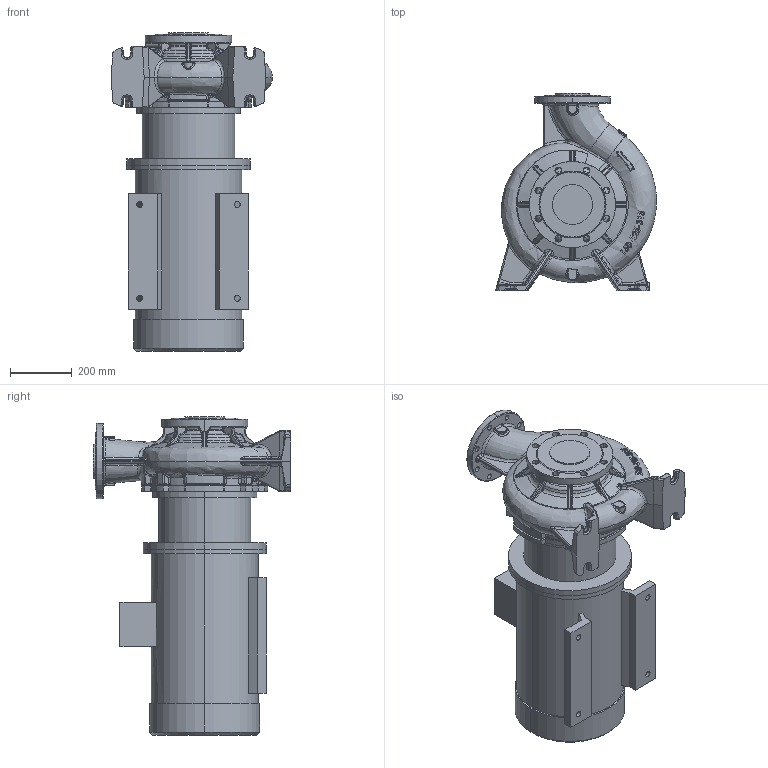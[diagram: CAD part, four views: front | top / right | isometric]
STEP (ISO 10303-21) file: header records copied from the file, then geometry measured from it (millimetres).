
FILE_DESCRIPTION (( 'STEP AP214' ), '1' );
FILE_NAME ('KRM 150-125-315-4-30.STEP', '2026-04-17T13:38:08', ( '' ), ( '' ), 'SwSTEP 2.0', 'SolidWorks 2016', '' );
FILE_SCHEMA (( 'AUTOMOTIVE_DESIGN' ));
Length unit declared in the file: millimetre
Products named in the file (1): KRM 150-125-315-4-30
Bounding box: 522.92 x 642 x 1035.3 mm (x, y, z)
Volume: 112035819 mm3; surface area: 3030640.8 mm2
Topology: 4 solids, 4 shells, 1443 faces, 3511 edges, 2081 vertices
Faces by surface type: bspline 625, cylinder 306, plane 271, torus 111, cone 91, sphere 39
Entity records: 172549 total; most frequent: CARTESIAN_POINT 127814, ORIENTED_EDGE 6950, DIRECTION 4785, EDGE_CURVE 3475, VERTEX_POINT 2081, AXIS2_PLACEMENT_3D 2009, EDGE_LOOP 1524, UNCERTAINTY_MEASURE_WITH_UNIT 1449
